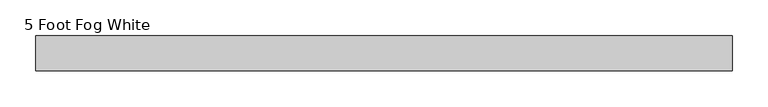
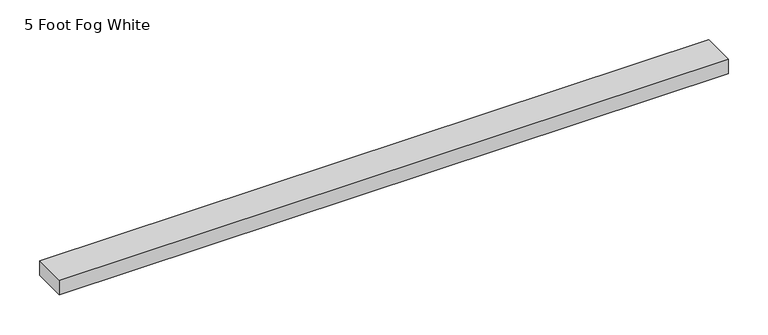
"""IFC4 building model written with IfcOpenShell, lengths in millimetres: proxy geometry, Raceway-2400_Series-Wiremold-Steel : 5 Foot Fog White."""

from ifc_helpers import new_model, si_unit, origin, origin_with_axes, place, context, project, spatial, polyline, outline, extrude, source, transform, mapped, element, save


def proxy_5_foot_fog_white_f3e463e6(model_context):
    return source(origin(), model_context, "Body", "SweptSolid", [
        extrude(outline(polyline([(967.3422751, 24.2062), (967.3422751, -24.2062), (0.0, -24.2062), (0.0, 24.2062), (967.3422751, 24.2062)])), origin_with_axes(), (0.0, 0.0, 1.0), 22.225),
    ])


if __name__ == "__main__":
    model = new_model("IFC4")
    model_context = context("Model", 3, world=origin())
    ifc_project = project(units=[si_unit("LENGTHUNIT", "METRE", prefix="MILLI")], contexts=[model_context])
    site = spatial("IfcSite", under=ifc_project)
    building = spatial("IfcBuilding", under=site)
    placement = place(None, origin())
    proxy_5_foot_fog_white_shape = proxy_5_foot_fog_white_f3e463e6(model_context)
    element("IfcBuildingElementProxy", 1, Name="Raceway-2400_Series-Wiremold-Steel : 5 Foot Fog White", ObjectType="Raceway-2400_Series-Wiremold-Steel : 5 Foot Fog White", at=placement, inside=building, context=model_context, shape_type="MappedRepresentation", body=[
        mapped(proxy_5_foot_fog_white_shape, transform((0.0, 0.0, 0.0), x_axis=(1.0, 0.0, 0.0), y_axis=(0.0, 1.0, 0.0), z_axis=(0.0, 0.0, 1.0))),
    ])
    save(model, "model.ifc")
